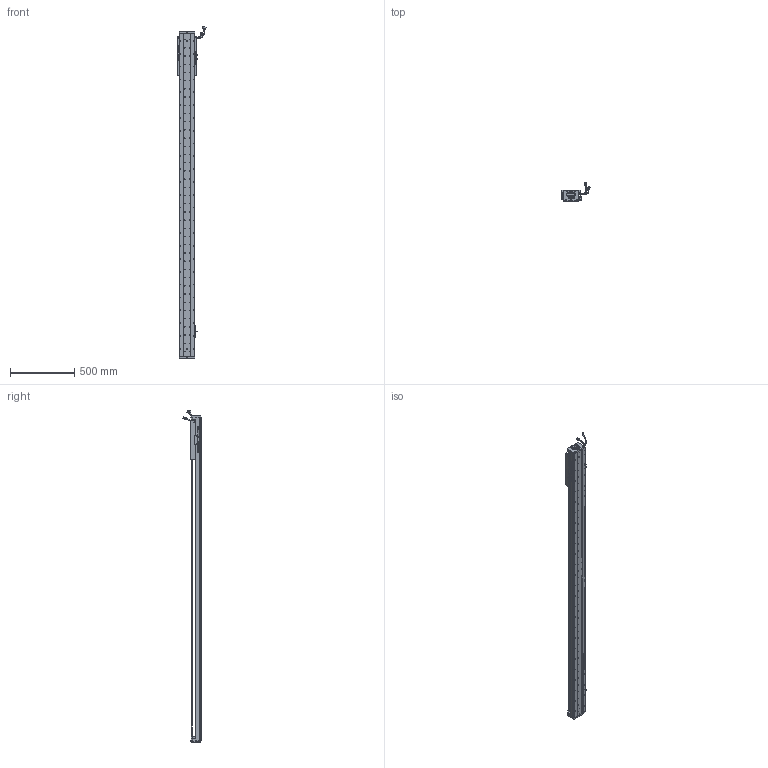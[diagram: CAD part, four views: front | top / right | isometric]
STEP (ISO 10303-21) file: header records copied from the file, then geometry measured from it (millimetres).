
FILE_DESCRIPTION (( 'STEP AP203' ), '1' );
FILE_NAME ('Z4-RY120D-1-L500-B-K.SLDASM_2150.step', '2021-05-17T06:09:35', ( '盈信电脑' ), ( '东莞市道滘镇水果街19号' ), 'SwSTEP 2.0', 'SolidWorks 2016', '' );
FILE_SCHEMA (( 'CONFIG_CONTROL_DESIGN' ));
Length unit declared in the file: millimetre
Products named in the file (37): SCREW-M1.7; Z4-RY120铝滑块（21款）; Z4-RY120-L500詩湍100mm遵_2150; RY100FB-遵嫖萇覜茼え; PSLH080_PSLF2; COVER-Part-1; 140蚥薯蝶輸; SHIELDPLATE; SCREW-M1.6-2; HARNESS; HOLDER0; 672嫖萇羲壽假蚾釱; 120-Z-臏賑輸盄裔(21遴); 榋妏寠巭燃_暯_M2_2; LABEL; Z4-RY120-500-倰第菁釱_2150; Z-120詩湍傷裔啣; Z4-RY120D-1-L500-B-K.SLDASM_2150; SCALE-Part-1; PBU_SHEET; Z-RY120D詩湍狟揤裔; 080黍杅芛假蚾釱21遴; HARNESS-Part-2; SEAL; SCREW-M1.6-1; HARNESS-Part-1; 140雄赽晤鎢ん堤盄; COVER; SEAL-Part-1; SCREW-M1.6; Z-RY120D詩湍奻揤裔; SCALE-Part-2; SCREW-M1.6-3; LABEL-Part-1; SCALE; SCREW-M1.7-1; 覜茼ん672
Assembly tree (43 placements, depth 4):
  Z4-RY120D-1-L500-B-K.SLDASM_2150
    Z4-RY120-500-倰第菁釱_2150
    覜茼ん672  x3
    672嫖萇羲壽假蚾釱  x2
    Z4-RY120铝滑块（21款）
    PSLH080_PSLF2
      SCALE
        SCALE-Part-1
        SCALE-Part-2
      HARNESS
        HARNESS-Part-1
        HARNESS-Part-2
      LABEL
        LABEL-Part-1
      COVER
        COVER-Part-1
      SEAL
        SEAL-Part-1
      榋妏寠巭燃_暯_M2_2
      SHIELDPLATE
      SCREW-M1.7
      SCREW-M1.7-1
      PBU_SHEET
      SCREW-M1.6
      SCREW-M1.6-1
      SCREW-M1.6-2
      SCREW-M1.6-3
      HOLDER0
    080黍杅芛假蚾釱21遴
    120-Z-臏賑輸盄裔(21遴)
    140雄赽晤鎢ん堤盄
    140蚥薯蝶輸  x2
    RY100FB-遵嫖萇覜茼え
    Z-120詩湍傷裔啣  x2
    Z-RY120D詩湍奻揤裔  x2
    Z-RY120D詩湍狟揤裔  x2
    Z4-RY120-L500詩湍100mm遵_2150
Bounding box: 222.88 x 140.94 x 2588.99 mm (x, y, z)
Volume: 6283024 mm3; surface area: 2159411.8 mm2
Topology: 38 solids, 38 shells, 3645 faces, 10350 edges, 6530 vertices
Faces by surface type: cylinder 1904, plane 1241, cone 378, torus 69, bspline 53
Entity records: 121649 total; most frequent: CARTESIAN_POINT 36962, ORIENTED_EDGE 17468, DIRECTION 16090, EDGE_CURVE 8734, AXIS2_PLACEMENT_3D 5952, VERTEX_POINT 5650, LINE 4186, VECTOR 4186
